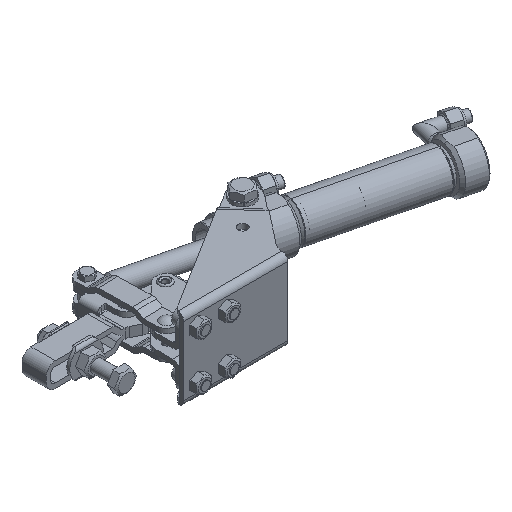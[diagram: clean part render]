
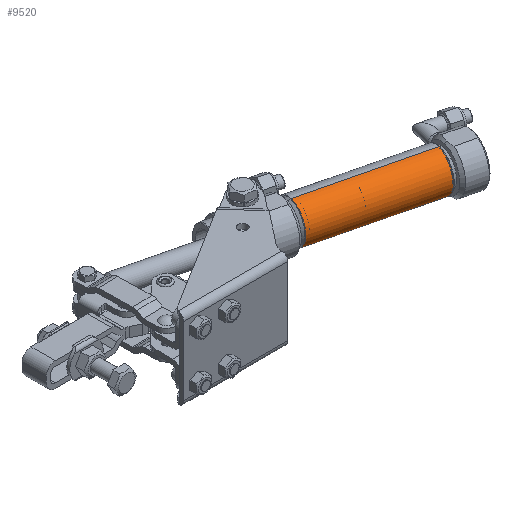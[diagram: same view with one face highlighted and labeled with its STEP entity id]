
A CAD part, isometric view. The second image highlights one B-rep face of the part: STEP entity #9520.
In plain terms, the highlighted cylindrical face has radius 13.2 mm (diameter 26.4 mm), a partial arc.
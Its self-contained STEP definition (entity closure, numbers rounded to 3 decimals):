
#1332=FACE_OUTER_BOUND('',#1953,.T.);
#1953=EDGE_LOOP('',(#8205,#8206,#8207,#8208));
#2728=LINE('',#16628,#3408);
#2729=LINE('',#16631,#3409);
#3408=VECTOR('',#13409,1000.);
#3409=VECTOR('',#13412,1000.);
#3933=CIRCLE('',#11035,13.2);
#3934=CIRCLE('',#11036,13.2);
#4705=VERTEX_POINT('',#16624);
#4706=VERTEX_POINT('',#16625);
#4707=VERTEX_POINT('',#16627);
#4708=VERTEX_POINT('',#16629);
#5883=EDGE_CURVE('',#4706,#4707,#2728,.T.);
#5885=EDGE_CURVE('',#4705,#4708,#2729,.T.);
#5923=EDGE_CURVE('',#4706,#4705,#3933,.T.);
#5924=EDGE_CURVE('',#4707,#4708,#3934,.T.);
#8205=ORIENTED_EDGE('',*,*,#5883,.F.);
#8206=ORIENTED_EDGE('',*,*,#5923,.T.);
#8207=ORIENTED_EDGE('',*,*,#5885,.T.);
#8208=ORIENTED_EDGE('',*,*,#5924,.F.);
#9092=CYLINDRICAL_SURFACE('',#11034,13.2);
#9520=ADVANCED_FACE('',(#1332),#9092,.T.);
#11034=AXIS2_PLACEMENT_3D('',#16789,#13509,#13510);
#11035=AXIS2_PLACEMENT_3D('',#16790,#13511,#13512);
#11036=AXIS2_PLACEMENT_3D('',#16791,#13513,#13514);
#13409=DIRECTION('',(0.,0.,1.));
#13412=DIRECTION('',(0.,0.,1.));
#13509=DIRECTION('center_axis',(0.,0.,1.));
#13510=DIRECTION('ref_axis',(1.,0.,0.));
#13511=DIRECTION('center_axis',(0.,0.,1.));
#13512=DIRECTION('ref_axis',(1.,0.,0.));
#13513=DIRECTION('center_axis',(0.,0.,1.));
#13514=DIRECTION('ref_axis',(1.,0.,0.));
#16624=CARTESIAN_POINT('',(13.2,0.,-100.));
#16625=CARTESIAN_POINT('',(-13.2,0.,-100.));
#16627=CARTESIAN_POINT('',(-13.2,0.,-19.));
#16628=CARTESIAN_POINT('',(-13.2,0.,-50.));
#16629=CARTESIAN_POINT('',(13.2,0.,-19.));
#16631=CARTESIAN_POINT('',(13.2,0.,-50.));
#16789=CARTESIAN_POINT('Origin',(0.,0.,-50.));
#16790=CARTESIAN_POINT('Origin',(0.,0.,-100.));
#16791=CARTESIAN_POINT('Origin',(0.,0.,-19.));
